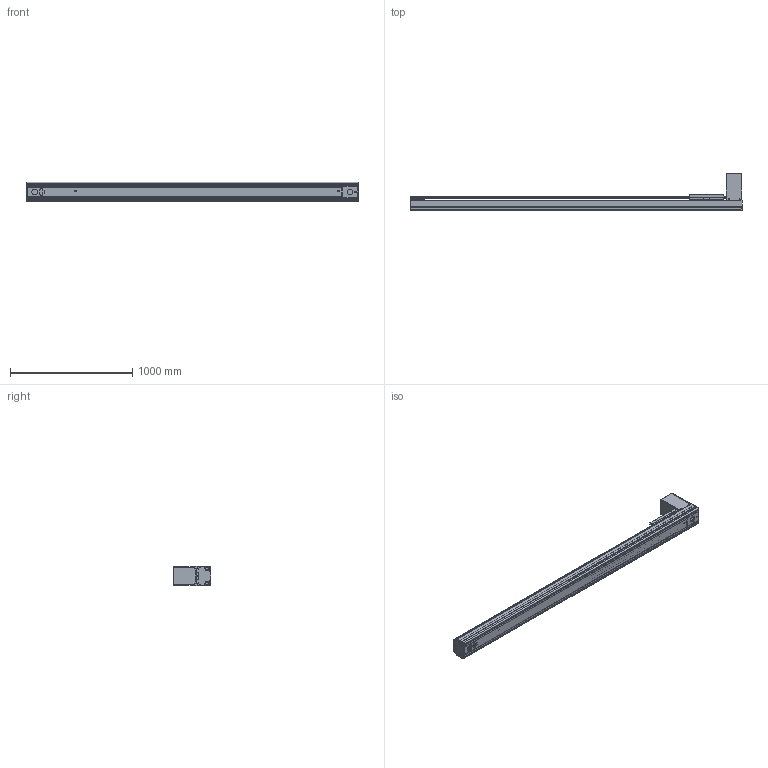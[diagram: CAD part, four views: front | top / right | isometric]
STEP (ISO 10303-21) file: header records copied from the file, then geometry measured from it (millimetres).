
FILE_DESCRIPTION((''),'2;1');
FILE_NAME('BE50G-BT-L19N-M5_IGS_PRT','2017-06-18T',(' '),(''),'PRO/ENGINEER BY PARAMETRIC TECHNOLOGY CORPORATION, 2015030','PRO/ENGINEER BY PARAMETRIC TECHNOLOGY CORPORATION, 2015030','');
FILE_SCHEMA(('CONFIG_CONTROL_DESIGN'));
Products named in the file (1): BE50G-BT-L19N-M5_IGS_PRT
Bounding box: 2720 x 309 x 160 mm (x, y, z)
Volume: 11838499.2 mm3; surface area: 4752887.8 mm2
Topology: 3 solids, 260 shells, 2121 faces, 6173 edges, 4225 vertices
Faces by surface type: cylinder 1099, plane 807, cone 172, sphere 23, torus 20
Entity records: 74070 total; most frequent: CARTESIAN_POINT 17427, DIRECTION 11746, ORIENTED_EDGE 11342, EDGE_CURVE 6099, AXIS2_PLACEMENT_3D 4434, VERTEX_POINT 4225, VECTOR 2878, LINE 2878
